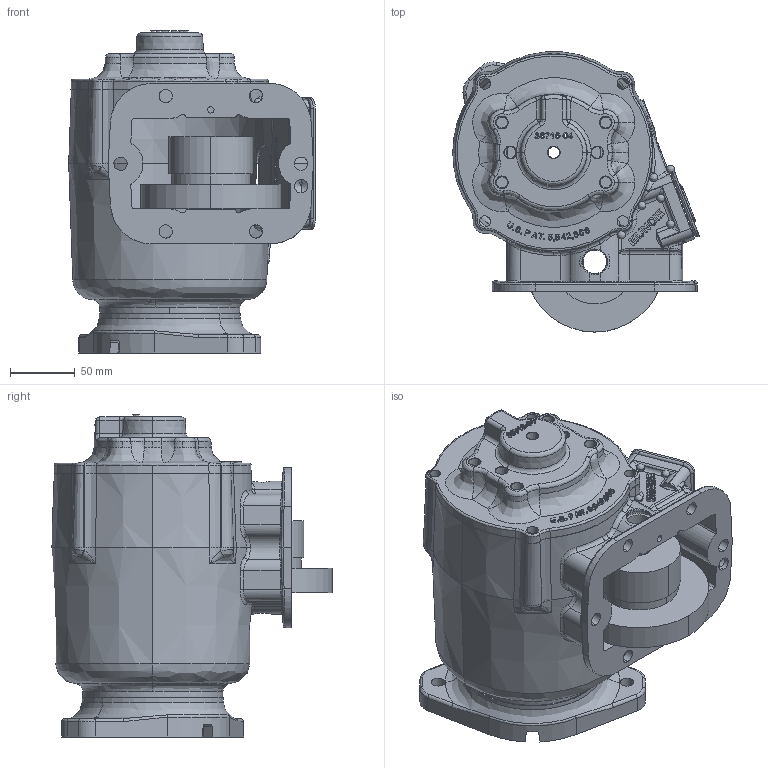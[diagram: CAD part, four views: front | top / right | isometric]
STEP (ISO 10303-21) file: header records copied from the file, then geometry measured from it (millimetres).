
FILE_DESCRIPTION (( 'STEP AP203' ), '1' );
FILE_NAME ('CS6S-XXXXX-X2SX.STEP', '2011-11-01T20:33:48', ( 'User' ), ( 'Muncie Power Products, Inc.' ), 'SwSTEP 2.0', 'SolidWorks 2011', '' );
FILE_SCHEMA (( 'CONFIG_CONTROL_DESIGN' ));
Length unit declared in the file: inch
Products named in the file (1): CS6S-XXXXX-X2SX
Bounding box: 190.82 x 216.75 x 249.19 mm (x, y, z)
Surface area: 307341.2 mm2 (no closed solid volume)
Topology: 0 solids, 17 shells, 1272 faces, 4083 edges, 2673 vertices
Faces by surface type: bspline 639, cylinder 276, plane 240, cone 111, torus 6
Entity records: 103727 total; most frequent: CARTESIAN_POINT 74636, ORIENTED_EDGE 6966, EDGE_CURVE 4015, DIRECTION 3659, VERTEX_POINT 2673, B_SPLINE_CURVE_WITH_KNOTS 2048, EDGE_LOOP 1428, LINE 1317
